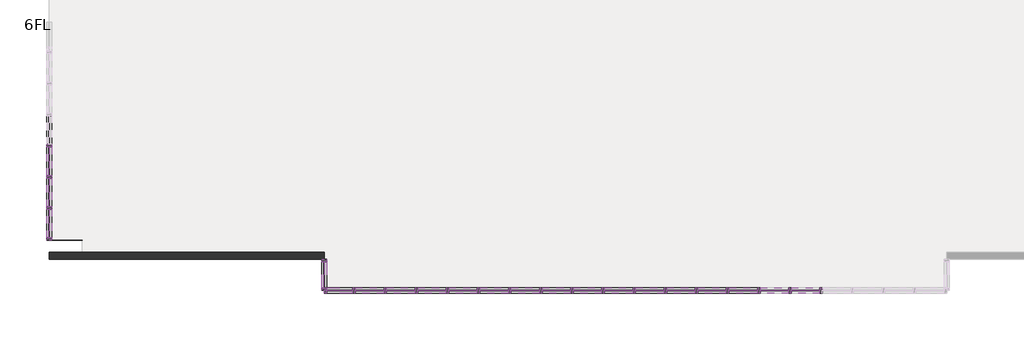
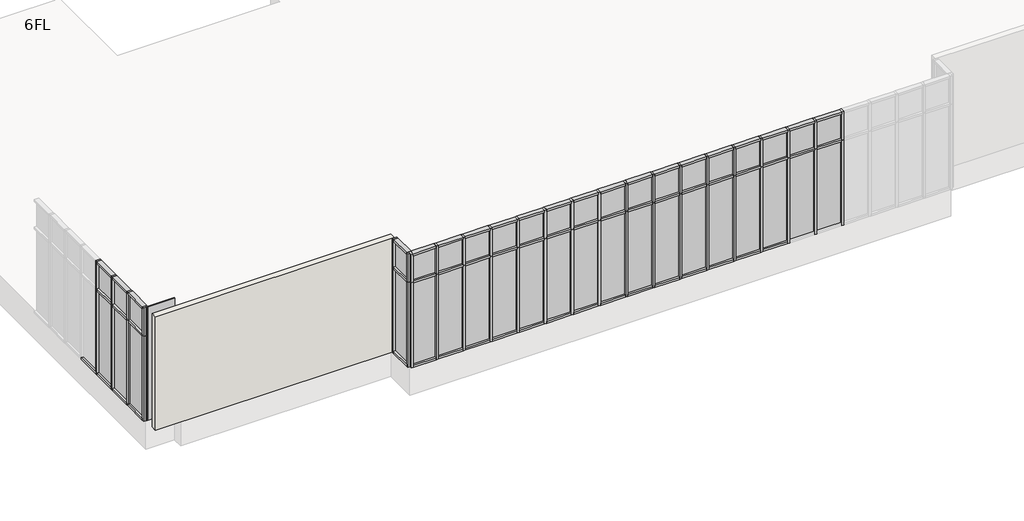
# One storey, part 1 of 4: 105 members, 42 plates, 1 wall.
"""IFC4 building model written with IfcOpenShell, lengths in millimetres."""

from ifc_helpers import new_model, si_unit, frame, origin, place, context, project, spatial, polyline, outline, extrude, transform, mapped, element, save
from components import member_70x150_cdd4dcf9, member_70x150_9a135ce4, member_70x150_66cf63de, member_70x150_26475b18, member_70x150_ad4265bc, member_70x150_e0eddb57, member_70x150_1b280ac3, member_70x150_76429c73, plate_d1366ea1, plate_ab860a3c, plate_28587fd3, plate_4b01b467, plate_396bcf3c, plate_83f08a3e

model = new_model("IFC4")

# Units and contexts
model_context = context("Model", 3, world=origin())
ifc_project = project(units=[si_unit("LENGTHUNIT", "METRE", prefix="MILLI")], contexts=[model_context])

# Site, building, storey
site = spatial("IfcSite", under=ifc_project)
building = spatial("IfcBuilding", under=site)
storey = spatial("IfcBuildingStorey", under=building, Name="6FL", Elevation=20600.0)

# Members
placement = place(None, origin())
member_70x150_shape = member_70x150_cdd4dcf9(model_context)
element("IfcMember", 1, ObjectType="長方形のマリオン : 70x150", at=placement, inside=storey, context=model_context, shape_type="MappedRepresentation", body=[
    mapped(member_70x150_shape, transform((-19630.9784025, -4550.3131013, 20600.0), x_axis=(-1.0, 0.0, 0.0), y_axis=(0.0, 1.0, 0.0), z_axis=(0.0, 0.0, -1.0))),
])
element("IfcMember", 2, ObjectType="長方形のマリオン : 70x150", at=placement, inside=storey, context=model_context, shape_type="MappedRepresentation", body=[
    mapped(member_70x150_shape, transform((-16030.9784025, -4550.3131013, 20600.0), x_axis=(-1.0, 0.0, 0.0), y_axis=(0.0, 1.0, 0.0), z_axis=(0.0, 0.0, -1.0))),
])
element("IfcMember", 3, ObjectType="長方形のマリオン : 70x150", at=placement, inside=storey, context=model_context, shape_type="MappedRepresentation", body=[
    mapped(member_70x150_shape, transform((-20530.9784025, -4550.3131013, 20600.0), x_axis=(-1.0, 0.0, 0.0), y_axis=(0.0, 1.0, 0.0), z_axis=(0.0, 0.0, -1.0))),
])
element("IfcMember", 4, ObjectType="長方形のマリオン : 70x150", at=placement, inside=storey, context=model_context, shape_type="MappedRepresentation", body=[
    mapped(member_70x150_shape, transform((-17830.9784025, -4550.3131013, 20600.0), x_axis=(-1.0, 0.0, 0.0), y_axis=(0.0, 1.0, 0.0), z_axis=(0.0, 0.0, -1.0))),
])
element("IfcMember", 5, ObjectType="長方形のマリオン : 70x150", at=placement, inside=storey, context=model_context, shape_type="MappedRepresentation", body=[
    mapped(member_70x150_shape, transform((-14230.9784025, -4550.3131013, 20600.0), x_axis=(-1.0, 0.0, 0.0), y_axis=(0.0, 1.0, 0.0), z_axis=(0.0, 0.0, -1.0))),
])
element("IfcMember", 6, ObjectType="長方形のマリオン : 70x150", at=placement, inside=storey, context=model_context, shape_type="MappedRepresentation", body=[
    mapped(member_70x150_shape, transform((-18730.9784025, -4550.3131013, 20600.0), x_axis=(-1.0, 0.0, 0.0), y_axis=(0.0, 1.0, 0.0), z_axis=(0.0, 0.0, -1.0))),
])
element("IfcMember", 7, ObjectType="長方形のマリオン : 70x150", at=placement, inside=storey, context=model_context, shape_type="MappedRepresentation", body=[
    mapped(member_70x150_shape, transform((-15130.9784025, -4550.3131013, 20600.0), x_axis=(-1.0, 0.0, 0.0), y_axis=(0.0, 1.0, 0.0), z_axis=(0.0, 0.0, -1.0))),
])
element("IfcMember", 8, ObjectType="長方形のマリオン : 70x150", at=placement, inside=storey, context=model_context, shape_type="MappedRepresentation", body=[
    mapped(member_70x150_shape, transform((-13330.9784025, -4550.3131013, 20600.0), x_axis=(-1.0, 0.0, 0.0), y_axis=(0.0, 1.0, 0.0), z_axis=(0.0, 0.0, -1.0))),
])
element("IfcMember", 9, ObjectType="長方形のマリオン : 70x150", at=placement, inside=storey, context=model_context, shape_type="MappedRepresentation", body=[
    mapped(member_70x150_shape, transform((-16930.9784025, -4550.3131013, 20600.0), x_axis=(-1.0, 0.0, 0.0), y_axis=(0.0, 1.0, 0.0), z_axis=(0.0, 0.0, -1.0))),
])
element("IfcMember", 10, ObjectType="長方形のマリオン : 70x150", at=placement, inside=storey, context=model_context, shape_type="MappedRepresentation", body=[
    mapped(member_70x150_shape, transform((-12430.9784025, -4550.3131013, 20600.0), x_axis=(-1.0, 0.0, 0.0), y_axis=(0.0, 1.0, 0.0), z_axis=(0.0, 0.0, -1.0))),
])
element("IfcMember", 11, ObjectType="長方形のマリオン : 70x150", at=placement, inside=storey, context=model_context, shape_type="MappedRepresentation", body=[
    mapped(member_70x150_shape, transform((-10630.9784025, -4550.3131013, 20600.0), x_axis=(-1.0, 0.0, 0.0), y_axis=(0.0, 1.0, 0.0), z_axis=(0.0, 0.0, -1.0))),
])
element("IfcMember", 12, ObjectType="長方形のマリオン : 70x150", at=placement, inside=storey, context=model_context, shape_type="MappedRepresentation", body=[
    mapped(member_70x150_shape, transform((-7930.9784025, -4550.3131013, 20600.0), x_axis=(-1.0, 0.0, 0.0), y_axis=(0.0, 1.0, 0.0), z_axis=(0.0, 0.0, -1.0))),
])
element("IfcMember", 13, ObjectType="長方形のマリオン : 70x150", at=placement, inside=storey, context=model_context, shape_type="MappedRepresentation", body=[
    mapped(member_70x150_shape, transform((-9730.9784025, -4550.3131013, 20600.0), x_axis=(-1.0, 0.0, 0.0), y_axis=(0.0, 1.0, 0.0), z_axis=(0.0, 0.0, -1.0))),
])
element("IfcMember", 14, ObjectType="長方形のマリオン : 70x150", at=placement, inside=storey, context=model_context, shape_type="MappedRepresentation", body=[
    mapped(member_70x150_shape, transform((-11530.9784025, -4550.3131013, 20600.0), x_axis=(-1.0, 0.0, 0.0), y_axis=(0.0, 1.0, 0.0), z_axis=(0.0, 0.0, -1.0))),
])
element("IfcMember", 15, ObjectType="長方形のマリオン : 70x150", at=placement, inside=storey, context=model_context, shape_type="MappedRepresentation", body=[
    mapped(member_70x150_shape, transform((-8830.9784025, -4550.3131013, 20600.0), x_axis=(-1.0, 0.0, 0.0), y_axis=(0.0, 1.0, 0.0), z_axis=(0.0, 0.0, -1.0))),
])
element("IfcMember", 16, ObjectType="長方形のマリオン : 70x150", at=placement, inside=storey, context=model_context, shape_type="MappedRepresentation", body=[
    mapped(member_70x150_shape, transform((-7030.9784025, -4550.3131013, 20600.0), x_axis=(-1.0, 0.0, 0.0), y_axis=(0.0, 1.0, 0.0), z_axis=(0.0, 0.0, -1.0))),
])
element("IfcMember", 17, ObjectType="長方形のマリオン : 70x150", at=placement, inside=storey, context=model_context, shape_type="MappedRepresentation", body=[
    mapped(member_70x150_shape, transform((-29345.9784025, -365.3131013, 20600.0), x_axis=(0.0, 1.0, 0.0), y_axis=(1.0, 0.0, 0.0), z_axis=(0.0, 0.0, -1.0))),
])
element("IfcMember", 18, ObjectType="長方形のマリオン : 70x150", at=placement, inside=storey, context=model_context, shape_type="MappedRepresentation", body=[
    mapped(member_70x150_shape, transform((-29345.9784025, -2165.3131013, 20600.0), x_axis=(0.0, 1.0, 0.0), y_axis=(1.0, 0.0, 0.0), z_axis=(0.0, 0.0, -1.0))),
])
element("IfcMember", 19, ObjectType="長方形のマリオン : 70x150", at=placement, inside=storey, context=model_context, shape_type="MappedRepresentation", body=[
    mapped(member_70x150_shape, transform((-29345.9784025, -1265.3131013, 20600.0), x_axis=(0.0, 1.0, 0.0), y_axis=(1.0, 0.0, 0.0), z_axis=(0.0, 0.0, -1.0))),
])
member_70x150_2_shape = member_70x150_9a135ce4(model_context)
element("IfcMember", 20, ObjectType="長方形のマリオン : 70x150", at=placement, inside=storey, context=model_context, shape_type="MappedRepresentation", body=[
    mapped(member_70x150_2_shape, transform((-21325.9784025, -4550.3131013, 24600.0), x_axis=(0.0, 0.0, 1.0), y_axis=(0.0, 1.0, 0.0), z_axis=(-1.0, 0.0, 0.0))),
])
element("IfcMember", 21, ObjectType="長方形のマリオン : 70x150", at=placement, inside=storey, context=model_context, shape_type="MappedRepresentation", body=[
    mapped(member_70x150_2_shape, transform((-21395.9784025, -3720.3131013, 24600.0), x_axis=(0.0, 0.0, 1.0), y_axis=(1.0, 0.0, 0.0), z_axis=(0.0, 1.0, 0.0))),
])
member_70x150_3_shape = member_70x150_66cf63de(model_context)
element("IfcMember", 22, ObjectType="長方形のマリオン : 70x150", at=placement, inside=storey, context=model_context, shape_type="MappedRepresentation", body=[
    mapped(member_70x150_3_shape, transform((-19665.9784025, -4550.3131013, 20600.0), x_axis=(0.0, 0.0, -1.0), y_axis=(0.0, 1.0, 0.0), z_axis=(1.0, 0.0, 0.0))),
])
element("IfcMember", 23, ObjectType="長方形のマリオン : 70x150", at=placement, inside=storey, context=model_context, shape_type="MappedRepresentation", body=[
    mapped(member_70x150_3_shape, transform((-18765.9784025, -4550.3131013, 20600.0), x_axis=(0.0, 0.0, -1.0), y_axis=(0.0, 1.0, 0.0), z_axis=(1.0, 0.0, 0.0))),
])
element("IfcMember", 24, ObjectType="長方形のマリオン : 70x150", at=placement, inside=storey, context=model_context, shape_type="MappedRepresentation", body=[
    mapped(member_70x150_3_shape, transform((-17865.9784025, -4550.3131013, 20600.0), x_axis=(0.0, 0.0, -1.0), y_axis=(0.0, 1.0, 0.0), z_axis=(1.0, 0.0, 0.0))),
])
element("IfcMember", 25, ObjectType="長方形のマリオン : 70x150", at=placement, inside=storey, context=model_context, shape_type="MappedRepresentation", body=[
    mapped(member_70x150_3_shape, transform((-16965.9784025, -4550.3131013, 20600.0), x_axis=(0.0, 0.0, -1.0), y_axis=(0.0, 1.0, 0.0), z_axis=(1.0, 0.0, 0.0))),
])
element("IfcMember", 26, ObjectType="長方形のマリオン : 70x150", at=placement, inside=storey, context=model_context, shape_type="MappedRepresentation", body=[
    mapped(member_70x150_3_shape, transform((-16065.9784025, -4550.3131013, 20600.0), x_axis=(0.0, 0.0, -1.0), y_axis=(0.0, 1.0, 0.0), z_axis=(1.0, 0.0, 0.0))),
])
element("IfcMember", 27, ObjectType="長方形のマリオン : 70x150", at=placement, inside=storey, context=model_context, shape_type="MappedRepresentation", body=[
    mapped(member_70x150_3_shape, transform((-11565.9784025, -4550.3131013, 20600.0), x_axis=(0.0, 0.0, -1.0), y_axis=(0.0, 1.0, 0.0), z_axis=(1.0, 0.0, 0.0))),
])
element("IfcMember", 28, ObjectType="長方形のマリオン : 70x150", at=placement, inside=storey, context=model_context, shape_type="MappedRepresentation", body=[
    mapped(member_70x150_3_shape, transform((-9765.9784025, -4550.3131013, 20600.0), x_axis=(0.0, 0.0, -1.0), y_axis=(0.0, 1.0, 0.0), z_axis=(1.0, 0.0, 0.0))),
])
element("IfcMember", 29, ObjectType="長方形のマリオン : 70x150", at=placement, inside=storey, context=model_context, shape_type="MappedRepresentation", body=[
    mapped(member_70x150_3_shape, transform((-13365.9784025, -4550.3131013, 20600.0), x_axis=(0.0, 0.0, -1.0), y_axis=(0.0, 1.0, 0.0), z_axis=(1.0, 0.0, 0.0))),
])
element("IfcMember", 30, ObjectType="長方形のマリオン : 70x150", at=placement, inside=storey, context=model_context, shape_type="MappedRepresentation", body=[
    mapped(member_70x150_3_shape, transform((-12465.9784025, -4550.3131013, 20600.0), x_axis=(0.0, 0.0, -1.0), y_axis=(0.0, 1.0, 0.0), z_axis=(1.0, 0.0, 0.0))),
])
element("IfcMember", 31, ObjectType="長方形のマリオン : 70x150", at=placement, inside=storey, context=model_context, shape_type="MappedRepresentation", body=[
    mapped(member_70x150_3_shape, transform((-14265.9784025, -4550.3131013, 20600.0), x_axis=(0.0, 0.0, -1.0), y_axis=(0.0, 1.0, 0.0), z_axis=(1.0, 0.0, 0.0))),
])
element("IfcMember", 32, ObjectType="長方形のマリオン : 70x150", at=placement, inside=storey, context=model_context, shape_type="MappedRepresentation", body=[
    mapped(member_70x150_3_shape, transform((-10665.9784025, -4550.3131013, 20600.0), x_axis=(0.0, 0.0, -1.0), y_axis=(0.0, 1.0, 0.0), z_axis=(1.0, 0.0, 0.0))),
])
element("IfcMember", 33, ObjectType="長方形のマリオン : 70x150", at=placement, inside=storey, context=model_context, shape_type="MappedRepresentation", body=[
    mapped(member_70x150_3_shape, transform((-15165.9784025, -4550.3131013, 20600.0), x_axis=(0.0, 0.0, -1.0), y_axis=(0.0, 1.0, 0.0), z_axis=(1.0, 0.0, 0.0))),
])
element("IfcMember", 34, ObjectType="長方形のマリオン : 70x150", at=placement, inside=storey, context=model_context, shape_type="MappedRepresentation", body=[
    mapped(member_70x150_3_shape, transform((-8865.9784025, -4550.3131013, 20600.0), x_axis=(0.0, 0.0, -1.0), y_axis=(0.0, 1.0, 0.0), z_axis=(1.0, 0.0, 0.0))),
])
element("IfcMember", 35, ObjectType="長方形のマリオン : 70x150", at=placement, inside=storey, context=model_context, shape_type="MappedRepresentation", body=[
    mapped(member_70x150_3_shape, transform((-29345.9784025, -330.3131013, 20600.0), x_axis=(0.0, 0.0, -1.0), y_axis=(1.0, 0.0, 0.0), z_axis=(0.0, -1.0, 0.0))),
])
element("IfcMember", 36, ObjectType="長方形のマリオン : 70x150", at=placement, inside=storey, context=model_context, shape_type="MappedRepresentation", body=[
    mapped(member_70x150_3_shape, transform((-29345.9784025, -1230.3131013, 20600.0), x_axis=(0.0, 0.0, -1.0), y_axis=(1.0, 0.0, 0.0), z_axis=(0.0, -1.0, 0.0))),
])
element("IfcMember", 37, ObjectType="長方形のマリオン : 70x150", at=placement, inside=storey, context=model_context, shape_type="MappedRepresentation", body=[
    mapped(member_70x150_3_shape, transform((-29345.9784025, -2130.3131013, 20600.0), x_axis=(0.0, 0.0, -1.0), y_axis=(1.0, 0.0, 0.0), z_axis=(0.0, -1.0, 0.0))),
])
element("IfcMember", 38, ObjectType="長方形のマリオン : 70x150", at=placement, inside=storey, context=model_context, shape_type="MappedRepresentation", body=[
    mapped(member_70x150_3_shape, transform((-29345.9784025, -3030.3131013, 20600.0), x_axis=(0.0, 0.0, -1.0), y_axis=(1.0, 0.0, 0.0), z_axis=(0.0, -1.0, 0.0))),
])
element("IfcMember", 39, ObjectType="長方形のマリオン : 70x150", at=placement, inside=storey, context=model_context, shape_type="MappedRepresentation", body=[
    mapped(member_70x150_3_shape, transform((-19595.9784025, -4550.3131013, 24600.0), x_axis=(0.0, 0.0, 1.0), y_axis=(0.0, 1.0, 0.0), z_axis=(-1.0, 0.0, 0.0))),
])
element("IfcMember", 40, ObjectType="長方形のマリオン : 70x150", at=placement, inside=storey, context=model_context, shape_type="MappedRepresentation", body=[
    mapped(member_70x150_3_shape, transform((-18695.9784025, -4550.3131013, 24600.0), x_axis=(0.0, 0.0, 1.0), y_axis=(0.0, 1.0, 0.0), z_axis=(-1.0, 0.0, 0.0))),
])
element("IfcMember", 41, ObjectType="長方形のマリオン : 70x150", at=placement, inside=storey, context=model_context, shape_type="MappedRepresentation", body=[
    mapped(member_70x150_3_shape, transform((-17795.9784025, -4550.3131013, 24600.0), x_axis=(0.0, 0.0, 1.0), y_axis=(0.0, 1.0, 0.0), z_axis=(-1.0, 0.0, 0.0))),
])
element("IfcMember", 42, ObjectType="長方形のマリオン : 70x150", at=placement, inside=storey, context=model_context, shape_type="MappedRepresentation", body=[
    mapped(member_70x150_3_shape, transform((-16895.9784025, -4550.3131013, 24600.0), x_axis=(0.0, 0.0, 1.0), y_axis=(0.0, 1.0, 0.0), z_axis=(-1.0, 0.0, 0.0))),
])
element("IfcMember", 43, ObjectType="長方形のマリオン : 70x150", at=placement, inside=storey, context=model_context, shape_type="MappedRepresentation", body=[
    mapped(member_70x150_3_shape, transform((-15995.9784025, -4550.3131013, 24600.0), x_axis=(0.0, 0.0, 1.0), y_axis=(0.0, 1.0, 0.0), z_axis=(-1.0, 0.0, 0.0))),
])
element("IfcMember", 44, ObjectType="長方形のマリオン : 70x150", at=placement, inside=storey, context=model_context, shape_type="MappedRepresentation", body=[
    mapped(member_70x150_3_shape, transform((-15095.9784025, -4550.3131013, 24600.0), x_axis=(0.0, 0.0, 1.0), y_axis=(0.0, 1.0, 0.0), z_axis=(-1.0, 0.0, 0.0))),
])
element("IfcMember", 45, ObjectType="長方形のマリオン : 70x150", at=placement, inside=storey, context=model_context, shape_type="MappedRepresentation", body=[
    mapped(member_70x150_3_shape, transform((-14195.9784025, -4550.3131013, 24600.0), x_axis=(0.0, 0.0, 1.0), y_axis=(0.0, 1.0, 0.0), z_axis=(-1.0, 0.0, 0.0))),
])
element("IfcMember", 46, ObjectType="長方形のマリオン : 70x150", at=placement, inside=storey, context=model_context, shape_type="MappedRepresentation", body=[
    mapped(member_70x150_3_shape, transform((-13295.9784025, -4550.3131013, 24600.0), x_axis=(0.0, 0.0, 1.0), y_axis=(0.0, 1.0, 0.0), z_axis=(-1.0, 0.0, 0.0))),
])
element("IfcMember", 47, ObjectType="長方形のマリオン : 70x150", at=placement, inside=storey, context=model_context, shape_type="MappedRepresentation", body=[
    mapped(member_70x150_3_shape, transform((-12395.9784025, -4550.3131013, 24600.0), x_axis=(0.0, 0.0, 1.0), y_axis=(0.0, 1.0, 0.0), z_axis=(-1.0, 0.0, 0.0))),
])
element("IfcMember", 48, ObjectType="長方形のマリオン : 70x150", at=placement, inside=storey, context=model_context, shape_type="MappedRepresentation", body=[
    mapped(member_70x150_3_shape, transform((-11495.9784025, -4550.3131013, 24600.0), x_axis=(0.0, 0.0, 1.0), y_axis=(0.0, 1.0, 0.0), z_axis=(-1.0, 0.0, 0.0))),
])
element("IfcMember", 49, ObjectType="長方形のマリオン : 70x150", at=placement, inside=storey, context=model_context, shape_type="MappedRepresentation", body=[
    mapped(member_70x150_3_shape, transform((-10595.9784025, -4550.3131013, 24600.0), x_axis=(0.0, 0.0, 1.0), y_axis=(0.0, 1.0, 0.0), z_axis=(-1.0, 0.0, 0.0))),
])
element("IfcMember", 50, ObjectType="長方形のマリオン : 70x150", at=placement, inside=storey, context=model_context, shape_type="MappedRepresentation", body=[
    mapped(member_70x150_3_shape, transform((-9695.9784025, -4550.3131013, 24600.0), x_axis=(0.0, 0.0, 1.0), y_axis=(0.0, 1.0, 0.0), z_axis=(-1.0, 0.0, 0.0))),
])
element("IfcMember", 51, ObjectType="長方形のマリオン : 70x150", at=placement, inside=storey, context=model_context, shape_type="MappedRepresentation", body=[
    mapped(member_70x150_3_shape, transform((-8795.9784025, -4550.3131013, 24600.0), x_axis=(0.0, 0.0, 1.0), y_axis=(0.0, 1.0, 0.0), z_axis=(-1.0, 0.0, 0.0))),
])
element("IfcMember", 52, ObjectType="長方形のマリオン : 70x150", at=placement, inside=storey, context=model_context, shape_type="MappedRepresentation", body=[
    mapped(member_70x150_3_shape, transform((-7895.9784025, -4550.3131013, 24600.0), x_axis=(0.0, 0.0, 1.0), y_axis=(0.0, 1.0, 0.0), z_axis=(-1.0, 0.0, 0.0))),
])
element("IfcMember", 53, ObjectType="長方形のマリオン : 70x150", at=placement, inside=storey, context=model_context, shape_type="MappedRepresentation", body=[
    mapped(member_70x150_3_shape, transform((-20495.9784025, -4550.3131013, 24600.0), x_axis=(0.0, 0.0, 1.0), y_axis=(0.0, 1.0, 0.0), z_axis=(-1.0, 0.0, 0.0))),
])
element("IfcMember", 54, ObjectType="長方形のマリオン : 70x150", at=placement, inside=storey, context=model_context, shape_type="MappedRepresentation", body=[
    mapped(member_70x150_3_shape, transform((-29345.9784025, -400.3131013, 24600.0), x_axis=(0.0, 0.0, 1.0), y_axis=(1.0, 0.0, 0.0), z_axis=(0.0, 1.0, 0.0))),
])
element("IfcMember", 55, ObjectType="長方形のマリオン : 70x150", at=placement, inside=storey, context=model_context, shape_type="MappedRepresentation", body=[
    mapped(member_70x150_3_shape, transform((-29345.9784025, -1300.3131013, 24600.0), x_axis=(0.0, 0.0, 1.0), y_axis=(1.0, 0.0, 0.0), z_axis=(0.0, 1.0, 0.0))),
])
element("IfcMember", 56, ObjectType="長方形のマリオン : 70x150", at=placement, inside=storey, context=model_context, shape_type="MappedRepresentation", body=[
    mapped(member_70x150_3_shape, transform((-29345.9784025, -2200.3131013, 24600.0), x_axis=(0.0, 0.0, 1.0), y_axis=(1.0, 0.0, 0.0), z_axis=(0.0, 1.0, 0.0))),
])
element("IfcMember", 57, ObjectType="長方形のマリオン : 70x150", at=placement, inside=storey, context=model_context, shape_type="MappedRepresentation", body=[
    mapped(member_70x150_2_shape, transform((-20565.9784025, -4550.3131013, 20600.0), x_axis=(0.0, 0.0, -1.0), y_axis=(0.0, 1.0, 0.0), z_axis=(1.0, 0.0, 0.0))),
])
element("IfcMember", 58, ObjectType="長方形のマリオン : 70x150", at=placement, inside=storey, context=model_context, shape_type="MappedRepresentation", body=[
    mapped(member_70x150_2_shape, transform((-21395.9784025, -4480.3131013, 20600.0), x_axis=(0.0, 0.0, -1.0), y_axis=(1.0, 0.0, 0.0), z_axis=(0.0, -1.0, 0.0))),
])
member_70x150_4_shape = member_70x150_26475b18(model_context)
element("IfcMember", 59, ObjectType="長方形のマリオン : 70x150", at=placement, inside=storey, context=model_context, shape_type="MappedRepresentation", body=[
    mapped(member_70x150_4_shape, transform((-20530.9784025, -4550.3131013, 23600.0), x_axis=(-1.0, 0.0, 0.0), y_axis=(0.0, 1.0, 0.0), z_axis=(0.0, 0.0, -1.0))),
])
element("IfcMember", 60, ObjectType="長方形のマリオン : 70x150", at=placement, inside=storey, context=model_context, shape_type="MappedRepresentation", body=[
    mapped(member_70x150_4_shape, transform((-19630.9784025, -4550.3131013, 23600.0), x_axis=(-1.0, 0.0, 0.0), y_axis=(0.0, 1.0, 0.0), z_axis=(0.0, 0.0, -1.0))),
])
element("IfcMember", 61, ObjectType="長方形のマリオン : 70x150", at=placement, inside=storey, context=model_context, shape_type="MappedRepresentation", body=[
    mapped(member_70x150_4_shape, transform((-18730.9784025, -4550.3131013, 23600.0), x_axis=(-1.0, 0.0, 0.0), y_axis=(0.0, 1.0, 0.0), z_axis=(0.0, 0.0, -1.0))),
])
element("IfcMember", 62, ObjectType="長方形のマリオン : 70x150", at=placement, inside=storey, context=model_context, shape_type="MappedRepresentation", body=[
    mapped(member_70x150_4_shape, transform((-17830.9784025, -4550.3131013, 23600.0), x_axis=(-1.0, 0.0, 0.0), y_axis=(0.0, 1.0, 0.0), z_axis=(0.0, 0.0, -1.0))),
])
element("IfcMember", 63, ObjectType="長方形のマリオン : 70x150", at=placement, inside=storey, context=model_context, shape_type="MappedRepresentation", body=[
    mapped(member_70x150_4_shape, transform((-16930.9784025, -4550.3131013, 23600.0), x_axis=(-1.0, 0.0, 0.0), y_axis=(0.0, 1.0, 0.0), z_axis=(0.0, 0.0, -1.0))),
])
element("IfcMember", 64, ObjectType="長方形のマリオン : 70x150", at=placement, inside=storey, context=model_context, shape_type="MappedRepresentation", body=[
    mapped(member_70x150_4_shape, transform((-16030.9784025, -4550.3131013, 23600.0), x_axis=(-1.0, 0.0, 0.0), y_axis=(0.0, 1.0, 0.0), z_axis=(0.0, 0.0, -1.0))),
])
element("IfcMember", 65, ObjectType="長方形のマリオン : 70x150", at=placement, inside=storey, context=model_context, shape_type="MappedRepresentation", body=[
    mapped(member_70x150_4_shape, transform((-15130.9784025, -4550.3131013, 23600.0), x_axis=(-1.0, 0.0, 0.0), y_axis=(0.0, 1.0, 0.0), z_axis=(0.0, 0.0, -1.0))),
])
element("IfcMember", 66, ObjectType="長方形のマリオン : 70x150", at=placement, inside=storey, context=model_context, shape_type="MappedRepresentation", body=[
    mapped(member_70x150_4_shape, transform((-14230.9784025, -4550.3131013, 23600.0), x_axis=(-1.0, 0.0, 0.0), y_axis=(0.0, 1.0, 0.0), z_axis=(0.0, 0.0, -1.0))),
])
element("IfcMember", 67, ObjectType="長方形のマリオン : 70x150", at=placement, inside=storey, context=model_context, shape_type="MappedRepresentation", body=[
    mapped(member_70x150_4_shape, transform((-13330.9784025, -4550.3131013, 23600.0), x_axis=(-1.0, 0.0, 0.0), y_axis=(0.0, 1.0, 0.0), z_axis=(0.0, 0.0, -1.0))),
])
element("IfcMember", 68, ObjectType="長方形のマリオン : 70x150", at=placement, inside=storey, context=model_context, shape_type="MappedRepresentation", body=[
    mapped(member_70x150_4_shape, transform((-12430.9784025, -4550.3131013, 23600.0), x_axis=(-1.0, 0.0, 0.0), y_axis=(0.0, 1.0, 0.0), z_axis=(0.0, 0.0, -1.0))),
])
element("IfcMember", 69, ObjectType="長方形のマリオン : 70x150", at=placement, inside=storey, context=model_context, shape_type="MappedRepresentation", body=[
    mapped(member_70x150_4_shape, transform((-11530.9784025, -4550.3131013, 23600.0), x_axis=(-1.0, 0.0, 0.0), y_axis=(0.0, 1.0, 0.0), z_axis=(0.0, 0.0, -1.0))),
])
element("IfcMember", 70, ObjectType="長方形のマリオン : 70x150", at=placement, inside=storey, context=model_context, shape_type="MappedRepresentation", body=[
    mapped(member_70x150_4_shape, transform((-10630.9784025, -4550.3131013, 23600.0), x_axis=(-1.0, 0.0, 0.0), y_axis=(0.0, 1.0, 0.0), z_axis=(0.0, 0.0, -1.0))),
])
element("IfcMember", 71, ObjectType="長方形のマリオン : 70x150", at=placement, inside=storey, context=model_context, shape_type="MappedRepresentation", body=[
    mapped(member_70x150_4_shape, transform((-9730.9784025, -4550.3131013, 23600.0), x_axis=(-1.0, 0.0, 0.0), y_axis=(0.0, 1.0, 0.0), z_axis=(0.0, 0.0, -1.0))),
])
element("IfcMember", 72, ObjectType="長方形のマリオン : 70x150", at=placement, inside=storey, context=model_context, shape_type="MappedRepresentation", body=[
    mapped(member_70x150_4_shape, transform((-8830.9784025, -4550.3131013, 23600.0), x_axis=(-1.0, 0.0, 0.0), y_axis=(0.0, 1.0, 0.0), z_axis=(0.0, 0.0, -1.0))),
])
element("IfcMember", 73, ObjectType="長方形のマリオン : 70x150", at=placement, inside=storey, context=model_context, shape_type="MappedRepresentation", body=[
    mapped(member_70x150_4_shape, transform((-7930.9784025, -4550.3131013, 23600.0), x_axis=(-1.0, 0.0, 0.0), y_axis=(0.0, 1.0, 0.0), z_axis=(0.0, 0.0, -1.0))),
])
element("IfcMember", 74, ObjectType="長方形のマリオン : 70x150", at=placement, inside=storey, context=model_context, shape_type="MappedRepresentation", body=[
    mapped(member_70x150_4_shape, transform((-7030.9784025, -4550.3131013, 23600.0), x_axis=(-1.0, 0.0, 0.0), y_axis=(0.0, 1.0, 0.0), z_axis=(0.0, 0.0, -1.0))),
])
element("IfcMember", 75, ObjectType="長方形のマリオン : 70x150", at=placement, inside=storey, context=model_context, shape_type="MappedRepresentation", body=[
    mapped(member_70x150_4_shape, transform((-29345.9784025, -365.3131013, 23600.0), x_axis=(0.0, 1.0, 0.0), y_axis=(1.0, 0.0, 0.0), z_axis=(0.0, 0.0, -1.0))),
])
element("IfcMember", 76, ObjectType="長方形のマリオン : 70x150", at=placement, inside=storey, context=model_context, shape_type="MappedRepresentation", body=[
    mapped(member_70x150_4_shape, transform((-29345.9784025, -2165.3131013, 23600.0), x_axis=(0.0, 1.0, 0.0), y_axis=(1.0, 0.0, 0.0), z_axis=(0.0, 0.0, -1.0))),
])
element("IfcMember", 77, ObjectType="長方形のマリオン : 70x150", at=placement, inside=storey, context=model_context, shape_type="MappedRepresentation", body=[
    mapped(member_70x150_4_shape, transform((-29345.9784025, -1265.3131013, 23600.0), x_axis=(0.0, 1.0, 0.0), y_axis=(1.0, 0.0, 0.0), z_axis=(0.0, 0.0, -1.0))),
])
member_70x150_5_shape = member_70x150_ad4265bc(model_context)
element("IfcMember", 78, ObjectType="長方形のマリオン : 70x150", at=placement, inside=storey, context=model_context, shape_type="MappedRepresentation", body=[
    mapped(member_70x150_5_shape, transform((-17795.9784025, -4550.3131013, 23600.0), x_axis=(0.0, 0.0, 1.0), y_axis=(0.0, 1.0, 0.0), z_axis=(-1.0, 0.0, 0.0))),
])
element("IfcMember", 79, ObjectType="長方形のマリオン : 70x150", at=placement, inside=storey, context=model_context, shape_type="MappedRepresentation", body=[
    mapped(member_70x150_5_shape, transform((-13295.9784025, -4550.3131013, 23600.0), x_axis=(0.0, 0.0, 1.0), y_axis=(0.0, 1.0, 0.0), z_axis=(-1.0, 0.0, 0.0))),
])
element("IfcMember", 80, ObjectType="長方形のマリオン : 70x150", at=placement, inside=storey, context=model_context, shape_type="MappedRepresentation", body=[
    mapped(member_70x150_5_shape, transform((-12395.9784025, -4550.3131013, 23600.0), x_axis=(0.0, 0.0, 1.0), y_axis=(0.0, 1.0, 0.0), z_axis=(-1.0, 0.0, 0.0))),
])
element("IfcMember", 81, ObjectType="長方形のマリオン : 70x150", at=placement, inside=storey, context=model_context, shape_type="MappedRepresentation", body=[
    mapped(member_70x150_5_shape, transform((-9695.9784025, -4550.3131013, 23600.0), x_axis=(0.0, 0.0, 1.0), y_axis=(0.0, 1.0, 0.0), z_axis=(-1.0, 0.0, 0.0))),
])
element("IfcMember", 82, ObjectType="長方形のマリオン : 70x150", at=placement, inside=storey, context=model_context, shape_type="MappedRepresentation", body=[
    mapped(member_70x150_5_shape, transform((-15995.9784025, -4550.3131013, 23600.0), x_axis=(0.0, 0.0, 1.0), y_axis=(0.0, 1.0, 0.0), z_axis=(-1.0, 0.0, 0.0))),
])
element("IfcMember", 83, ObjectType="長方形のマリオン : 70x150", at=placement, inside=storey, context=model_context, shape_type="MappedRepresentation", body=[
    mapped(member_70x150_5_shape, transform((-15095.9784025, -4550.3131013, 23600.0), x_axis=(0.0, 0.0, 1.0), y_axis=(0.0, 1.0, 0.0), z_axis=(-1.0, 0.0, 0.0))),
])
element("IfcMember", 84, ObjectType="長方形のマリオン : 70x150", at=placement, inside=storey, context=model_context, shape_type="MappedRepresentation", body=[
    mapped(member_70x150_5_shape, transform((-16895.9784025, -4550.3131013, 23600.0), x_axis=(0.0, 0.0, 1.0), y_axis=(0.0, 1.0, 0.0), z_axis=(-1.0, 0.0, 0.0))),
])
element("IfcMember", 85, ObjectType="長方形のマリオン : 70x150", at=placement, inside=storey, context=model_context, shape_type="MappedRepresentation", body=[
    mapped(member_70x150_5_shape, transform((-8795.9784025, -4550.3131013, 23600.0), x_axis=(0.0, 0.0, 1.0), y_axis=(0.0, 1.0, 0.0), z_axis=(-1.0, 0.0, 0.0))),
])
element("IfcMember", 86, ObjectType="長方形のマリオン : 70x150", at=placement, inside=storey, context=model_context, shape_type="MappedRepresentation", body=[
    mapped(member_70x150_5_shape, transform((-11495.9784025, -4550.3131013, 23600.0), x_axis=(0.0, 0.0, 1.0), y_axis=(0.0, 1.0, 0.0), z_axis=(-1.0, 0.0, 0.0))),
])
element("IfcMember", 87, ObjectType="長方形のマリオン : 70x150", at=placement, inside=storey, context=model_context, shape_type="MappedRepresentation", body=[
    mapped(member_70x150_5_shape, transform((-14195.9784025, -4550.3131013, 23600.0), x_axis=(0.0, 0.0, 1.0), y_axis=(0.0, 1.0, 0.0), z_axis=(-1.0, 0.0, 0.0))),
])
element("IfcMember", 88, ObjectType="長方形のマリオン : 70x150", at=placement, inside=storey, context=model_context, shape_type="MappedRepresentation", body=[
    mapped(member_70x150_5_shape, transform((-7895.9784025, -4550.3131013, 23600.0), x_axis=(0.0, 0.0, 1.0), y_axis=(0.0, 1.0, 0.0), z_axis=(-1.0, 0.0, 0.0))),
])
element("IfcMember", 89, ObjectType="長方形のマリオン : 70x150", at=placement, inside=storey, context=model_context, shape_type="MappedRepresentation", body=[
    mapped(member_70x150_5_shape, transform((-19595.9784025, -4550.3131013, 23600.0), x_axis=(0.0, 0.0, 1.0), y_axis=(0.0, 1.0, 0.0), z_axis=(-1.0, 0.0, 0.0))),
])
element("IfcMember", 90, ObjectType="長方形のマリオン : 70x150", at=placement, inside=storey, context=model_context, shape_type="MappedRepresentation", body=[
    mapped(member_70x150_5_shape, transform((-18695.9784025, -4550.3131013, 23600.0), x_axis=(0.0, 0.0, 1.0), y_axis=(0.0, 1.0, 0.0), z_axis=(-1.0, 0.0, 0.0))),
])
element("IfcMember", 91, ObjectType="長方形のマリオン : 70x150", at=placement, inside=storey, context=model_context, shape_type="MappedRepresentation", body=[
    mapped(member_70x150_5_shape, transform((-10595.9784025, -4550.3131013, 23600.0), x_axis=(0.0, 0.0, 1.0), y_axis=(0.0, 1.0, 0.0), z_axis=(-1.0, 0.0, 0.0))),
])
element("IfcMember", 92, ObjectType="長方形のマリオン : 70x150", at=placement, inside=storey, context=model_context, shape_type="MappedRepresentation", body=[
    mapped(member_70x150_5_shape, transform((-20495.9784025, -4550.3131013, 23600.0), x_axis=(0.0, 0.0, 1.0), y_axis=(0.0, 1.0, 0.0), z_axis=(-1.0, 0.0, 0.0))),
])
element("IfcMember", 93, ObjectType="長方形のマリオン : 70x150", at=placement, inside=storey, context=model_context, shape_type="MappedRepresentation", body=[
    mapped(member_70x150_5_shape, transform((-29345.9784025, -2200.3131013, 23600.0), x_axis=(0.0, 0.0, 1.0), y_axis=(1.0, 0.0, 0.0), z_axis=(0.0, 1.0, 0.0))),
])
element("IfcMember", 94, ObjectType="長方形のマリオン : 70x150", at=placement, inside=storey, context=model_context, shape_type="MappedRepresentation", body=[
    mapped(member_70x150_5_shape, transform((-29345.9784025, -400.3131013, 23600.0), x_axis=(0.0, 0.0, 1.0), y_axis=(1.0, 0.0, 0.0), z_axis=(0.0, 1.0, 0.0))),
])
element("IfcMember", 95, ObjectType="長方形のマリオン : 70x150", at=placement, inside=storey, context=model_context, shape_type="MappedRepresentation", body=[
    mapped(member_70x150_5_shape, transform((-29345.9784025, -1300.3131013, 23600.0), x_axis=(0.0, 0.0, 1.0), y_axis=(1.0, 0.0, 0.0), z_axis=(0.0, 1.0, 0.0))),
])
member_70x150_6_shape = member_70x150_e0eddb57(model_context)
element("IfcMember", 96, ObjectType="長方形のマリオン : 70x150", at=placement, inside=storey, context=model_context, shape_type="MappedRepresentation", body=[
    mapped(member_70x150_6_shape, transform((-21325.9784025, -4550.3131013, 23600.0), x_axis=(0.0, 0.0, 1.0), y_axis=(0.0, 1.0, 0.0), z_axis=(-1.0, 0.0, 0.0))),
])
element("IfcMember", 97, ObjectType="長方形のマリオン : 70x150", at=placement, inside=storey, context=model_context, shape_type="MappedRepresentation", body=[
    mapped(member_70x150_6_shape, transform((-21395.9784025, -3720.3131013, 23600.0), x_axis=(0.0, 0.0, 1.0), y_axis=(1.0, 0.0, 0.0), z_axis=(0.0, 1.0, 0.0))),
])
member_70x150_7_shape = member_70x150_1b280ac3(model_context)
element("IfcMember", 98, ObjectType="長方形のマリオン : 70x150", at=placement, inside=storey, context=model_context, shape_type="MappedRepresentation", body=[
    mapped(member_70x150_7_shape, transform((-21395.9784025, -4550.3131013, 20600.0), x_axis=(-1.0, 0.0, 0.0), y_axis=(0.0, 1.0, 0.0), z_axis=(0.0, 0.0, -1.0))),
])
element("IfcMember", 99, ObjectType="長方形のマリオン : 70x150", at=placement, inside=storey, context=model_context, shape_type="MappedRepresentation", body=[
    mapped(member_70x150_7_shape, transform((-21395.9784025, -3650.3131013, 20600.0), x_axis=(0.0, 1.0, 0.0), y_axis=(1.0, 0.0, 0.0), z_axis=(0.0, 0.0, -1.0))),
])
member_70x150_8_shape = member_70x150_76429c73(model_context)
element("IfcMember", 100, ObjectType="長方形のマリオン : 70x150", at=placement, inside=storey, context=model_context, shape_type="MappedRepresentation", body=[
    mapped(member_70x150_8_shape, transform((-29345.9784025, -3100.3131013, 24600.0), x_axis=(0.0, -1.0, 0.0), y_axis=(1.0, 0.0, 0.0), z_axis=(0.0, 0.0, 1.0))),
])
element("IfcMember", 101, ObjectType="長方形のマリオン : 70x150", at=placement, inside=storey, context=model_context, shape_type="MappedRepresentation", body=[
    mapped(member_70x150_8_shape, transform((-21395.9784025, -4550.3131013, 24600.0), x_axis=(0.0, -1.0, 0.0), y_axis=(1.0, 0.0, 0.0), z_axis=(0.0, 0.0, 1.0))),
])
element("IfcMember", 102, ObjectType="長方形のマリオン : 70x150", at=placement, inside=storey, context=model_context, shape_type="MappedRepresentation", body=[
    mapped(member_70x150_8_shape, transform((-21395.9784025, -4550.3131013, 23600.0), x_axis=(-1.0, 0.0, 0.0), y_axis=(0.0, 1.0, 0.0), z_axis=(0.0, 0.0, -1.0))),
])
element("IfcMember", 103, ObjectType="長方形のマリオン : 70x150", at=placement, inside=storey, context=model_context, shape_type="MappedRepresentation", body=[
    mapped(member_70x150_8_shape, transform((-21395.9784025, -3650.3131013, 23600.0), x_axis=(0.0, 1.0, 0.0), y_axis=(1.0, 0.0, 0.0), z_axis=(0.0, 0.0, -1.0))),
])
element("IfcMember", 104, ObjectType="長方形のマリオン : 70x150", at=placement, inside=storey, context=model_context, shape_type="MappedRepresentation", body=[
    mapped(member_70x150_7_shape, transform((-29345.9784025, -3100.3131013, 23600.0), x_axis=(0.0, -1.0, 0.0), y_axis=(1.0, 0.0, 0.0), z_axis=(0.0, 0.0, 1.0))),
])
element("IfcMember", 105, ObjectType="長方形のマリオン : 70x150", at=placement, inside=storey, context=model_context, shape_type="MappedRepresentation", body=[
    mapped(member_70x150_7_shape, transform((-21395.9784025, -4550.3131013, 23600.0), x_axis=(0.0, -1.0, 0.0), y_axis=(1.0, 0.0, 0.0), z_axis=(0.0, 0.0, 1.0))),
])

# Plates
plate_shape = plate_d1366ea1(model_context)
element("IfcPlate", 106, ObjectType="システム パネル : 標準", at=placement, inside=storey, context=model_context, shape_type="MappedRepresentation", body=[
    mapped(plate_shape, transform((-28845.9784025, -3100.3131013, 20600.0), x_axis=(-1.0, 0.0, 0.0), y_axis=(0.0, -1.0, 0.0), z_axis=(0.0, 0.0, 1.0))),
])
plate_2_shape = plate_ab860a3c(model_context)
element("IfcPlate", 107, ObjectType="システム パネル : 標準", at=placement, inside=storey, context=model_context, shape_type="MappedRepresentation", body=[
    mapped(plate_2_shape, transform((-29320.9784025, -3100.3131013, 20600.0), x_axis=(-1.0, 0.0, 0.0), y_axis=(0.0, -1.0, 0.0), z_axis=(0.0, 0.0, 1.0))),
])
plate_3_shape = plate_28587fd3(model_context)
element("IfcPlate", 108, ObjectType="システム パネル : 標準", at=placement, inside=storey, context=model_context, shape_type="MappedRepresentation", body=[
    mapped(plate_3_shape, transform((-29345.9784025, -2615.3131013, 20670.0), x_axis=(0.0, 1.0, 0.0), y_axis=(-1.0, 0.0, 0.0), z_axis=(0.0, 0.0, 1.0))),
])
element("IfcPlate", 109, ObjectType="システム パネル : 標準", at=placement, inside=storey, context=model_context, shape_type="MappedRepresentation", body=[
    mapped(plate_3_shape, transform((-29345.9784025, -1715.3131013, 20670.0), x_axis=(0.0, 1.0, 0.0), y_axis=(-1.0, 0.0, 0.0), z_axis=(0.0, 0.0, 1.0))),
])
element("IfcPlate", 110, ObjectType="システム パネル : 標準", at=placement, inside=storey, context=model_context, shape_type="MappedRepresentation", body=[
    mapped(plate_3_shape, transform((-29345.9784025, -815.3131013, 20670.0), x_axis=(0.0, 1.0, 0.0), y_axis=(-1.0, 0.0, 0.0), z_axis=(0.0, 0.0, 1.0))),
])
element("IfcPlate", 111, ObjectType="システム パネル : 標準", at=placement, inside=storey, context=model_context, shape_type="MappedRepresentation", body=[
    mapped(plate_3_shape, transform((-7480.9784025, -4550.3131013, 20670.0), x_axis=(-1.0, 0.0, 0.0), y_axis=(0.0, -1.0, 0.0), z_axis=(0.0, 0.0, 1.0))),
])
element("IfcPlate", 112, ObjectType="システム パネル : 標準", at=placement, inside=storey, context=model_context, shape_type="MappedRepresentation", body=[
    mapped(plate_3_shape, transform((-8380.9784025, -4550.3131013, 20670.0), x_axis=(-1.0, 0.0, 0.0), y_axis=(0.0, -1.0, 0.0), z_axis=(0.0, 0.0, 1.0))),
])
element("IfcPlate", 113, ObjectType="システム パネル : 標準", at=placement, inside=storey, context=model_context, shape_type="MappedRepresentation", body=[
    mapped(plate_3_shape, transform((-9280.9784025, -4550.3131013, 20670.0), x_axis=(-1.0, 0.0, 0.0), y_axis=(0.0, -1.0, 0.0), z_axis=(0.0, 0.0, 1.0))),
])
element("IfcPlate", 114, ObjectType="システム パネル : 標準", at=placement, inside=storey, context=model_context, shape_type="MappedRepresentation", body=[
    mapped(plate_3_shape, transform((-10180.9784025, -4550.3131013, 20670.0), x_axis=(-1.0, 0.0, 0.0), y_axis=(0.0, -1.0, 0.0), z_axis=(0.0, 0.0, 1.0))),
])
element("IfcPlate", 115, ObjectType="システム パネル : 標準", at=placement, inside=storey, context=model_context, shape_type="MappedRepresentation", body=[
    mapped(plate_3_shape, transform((-11080.9784025, -4550.3131013, 20670.0), x_axis=(-1.0, 0.0, 0.0), y_axis=(0.0, -1.0, 0.0), z_axis=(0.0, 0.0, 1.0))),
])
element("IfcPlate", 116, ObjectType="システム パネル : 標準", at=placement, inside=storey, context=model_context, shape_type="MappedRepresentation", body=[
    mapped(plate_3_shape, transform((-11980.9784025, -4550.3131013, 20670.0), x_axis=(-1.0, 0.0, 0.0), y_axis=(0.0, -1.0, 0.0), z_axis=(0.0, 0.0, 1.0))),
])
element("IfcPlate", 117, ObjectType="システム パネル : 標準", at=placement, inside=storey, context=model_context, shape_type="MappedRepresentation", body=[
    mapped(plate_3_shape, transform((-12880.9784025, -4550.3131013, 20670.0), x_axis=(-1.0, 0.0, 0.0), y_axis=(0.0, -1.0, 0.0), z_axis=(0.0, 0.0, 1.0))),
])
element("IfcPlate", 118, ObjectType="システム パネル : 標準", at=placement, inside=storey, context=model_context, shape_type="MappedRepresentation", body=[
    mapped(plate_3_shape, transform((-13780.9784025, -4550.3131013, 20670.0), x_axis=(-1.0, 0.0, 0.0), y_axis=(0.0, -1.0, 0.0), z_axis=(0.0, 0.0, 1.0))),
])
element("IfcPlate", 119, ObjectType="システム パネル : 標準", at=placement, inside=storey, context=model_context, shape_type="MappedRepresentation", body=[
    mapped(plate_3_shape, transform((-14680.9784025, -4550.3131013, 20670.0), x_axis=(-1.0, 0.0, 0.0), y_axis=(0.0, -1.0, 0.0), z_axis=(0.0, 0.0, 1.0))),
])
element("IfcPlate", 120, ObjectType="システム パネル : 標準", at=placement, inside=storey, context=model_context, shape_type="MappedRepresentation", body=[
    mapped(plate_3_shape, transform((-15580.9784025, -4550.3131013, 20670.0), x_axis=(-1.0, 0.0, 0.0), y_axis=(0.0, -1.0, 0.0), z_axis=(0.0, 0.0, 1.0))),
])
element("IfcPlate", 121, ObjectType="システム パネル : 標準", at=placement, inside=storey, context=model_context, shape_type="MappedRepresentation", body=[
    mapped(plate_3_shape, transform((-16480.9784025, -4550.3131013, 20670.0), x_axis=(-1.0, 0.0, 0.0), y_axis=(0.0, -1.0, 0.0), z_axis=(0.0, 0.0, 1.0))),
])
element("IfcPlate", 122, ObjectType="システム パネル : 標準", at=placement, inside=storey, context=model_context, shape_type="MappedRepresentation", body=[
    mapped(plate_3_shape, transform((-17380.9784025, -4550.3131013, 20670.0), x_axis=(-1.0, 0.0, 0.0), y_axis=(0.0, -1.0, 0.0), z_axis=(0.0, 0.0, 1.0))),
])
element("IfcPlate", 123, ObjectType="システム パネル : 標準", at=placement, inside=storey, context=model_context, shape_type="MappedRepresentation", body=[
    mapped(plate_3_shape, transform((-18280.9784025, -4550.3131013, 20670.0), x_axis=(-1.0, 0.0, 0.0), y_axis=(0.0, -1.0, 0.0), z_axis=(0.0, 0.0, 1.0))),
])
element("IfcPlate", 124, ObjectType="システム パネル : 標準", at=placement, inside=storey, context=model_context, shape_type="MappedRepresentation", body=[
    mapped(plate_3_shape, transform((-19180.9784025, -4550.3131013, 20670.0), x_axis=(-1.0, 0.0, 0.0), y_axis=(0.0, -1.0, 0.0), z_axis=(0.0, 0.0, 1.0))),
])
element("IfcPlate", 125, ObjectType="システム パネル : 標準", at=placement, inside=storey, context=model_context, shape_type="MappedRepresentation", body=[
    mapped(plate_3_shape, transform((-20080.9784025, -4550.3131013, 20670.0), x_axis=(-1.0, 0.0, 0.0), y_axis=(0.0, -1.0, 0.0), z_axis=(0.0, 0.0, 1.0))),
])
plate_4_shape = plate_4b01b467(model_context)
element("IfcPlate", 126, ObjectType="システム パネル : 標準", at=placement, inside=storey, context=model_context, shape_type="MappedRepresentation", body=[
    mapped(plate_4_shape, transform((-20945.9784025, -4550.3131013, 20670.0), x_axis=(-1.0, 0.0, 0.0), y_axis=(0.0, -1.0, 0.0), z_axis=(0.0, 0.0, 1.0))),
])
element("IfcPlate", 127, ObjectType="システム パネル : 標準", at=placement, inside=storey, context=model_context, shape_type="MappedRepresentation", body=[
    mapped(plate_4_shape, transform((-21395.9784025, -4100.3131013, 20670.0), x_axis=(0.0, 1.0, 0.0), y_axis=(-1.0, 0.0, 0.0), z_axis=(0.0, 0.0, 1.0))),
])
plate_5_shape = plate_396bcf3c(model_context)
element("IfcPlate", 128, ObjectType="システム パネル : 標準", at=placement, inside=storey, context=model_context, shape_type="MappedRepresentation", body=[
    mapped(plate_5_shape, transform((-7480.9784025, -4550.3131013, 23635.0), x_axis=(-1.0, 0.0, 0.0), y_axis=(0.0, -1.0, 0.0), z_axis=(0.0, 0.0, 1.0))),
])
element("IfcPlate", 129, ObjectType="システム パネル : 標準", at=placement, inside=storey, context=model_context, shape_type="MappedRepresentation", body=[
    mapped(plate_5_shape, transform((-8380.9784025, -4550.3131013, 23635.0), x_axis=(-1.0, 0.0, 0.0), y_axis=(0.0, -1.0, 0.0), z_axis=(0.0, 0.0, 1.0))),
])
element("IfcPlate", 130, ObjectType="システム パネル : 標準", at=placement, inside=storey, context=model_context, shape_type="MappedRepresentation", body=[
    mapped(plate_5_shape, transform((-9280.9784025, -4550.3131013, 23635.0), x_axis=(-1.0, 0.0, 0.0), y_axis=(0.0, -1.0, 0.0), z_axis=(0.0, 0.0, 1.0))),
])
element("IfcPlate", 131, ObjectType="システム パネル : 標準", at=placement, inside=storey, context=model_context, shape_type="MappedRepresentation", body=[
    mapped(plate_5_shape, transform((-10180.9784025, -4550.3131013, 23635.0), x_axis=(-1.0, 0.0, 0.0), y_axis=(0.0, -1.0, 0.0), z_axis=(0.0, 0.0, 1.0))),
])
element("IfcPlate", 132, ObjectType="システム パネル : 標準", at=placement, inside=storey, context=model_context, shape_type="MappedRepresentation", body=[
    mapped(plate_5_shape, transform((-11080.9784025, -4550.3131013, 23635.0), x_axis=(-1.0, 0.0, 0.0), y_axis=(0.0, -1.0, 0.0), z_axis=(0.0, 0.0, 1.0))),
])
element("IfcPlate", 133, ObjectType="システム パネル : 標準", at=placement, inside=storey, context=model_context, shape_type="MappedRepresentation", body=[
    mapped(plate_5_shape, transform((-11980.9784025, -4550.3131013, 23635.0), x_axis=(-1.0, 0.0, 0.0), y_axis=(0.0, -1.0, 0.0), z_axis=(0.0, 0.0, 1.0))),
])
element("IfcPlate", 134, ObjectType="システム パネル : 標準", at=placement, inside=storey, context=model_context, shape_type="MappedRepresentation", body=[
    mapped(plate_5_shape, transform((-12880.9784025, -4550.3131013, 23635.0), x_axis=(-1.0, 0.0, 0.0), y_axis=(0.0, -1.0, 0.0), z_axis=(0.0, 0.0, 1.0))),
])
element("IfcPlate", 135, ObjectType="システム パネル : 標準", at=placement, inside=storey, context=model_context, shape_type="MappedRepresentation", body=[
    mapped(plate_5_shape, transform((-13780.9784025, -4550.3131013, 23635.0), x_axis=(-1.0, 0.0, 0.0), y_axis=(0.0, -1.0, 0.0), z_axis=(0.0, 0.0, 1.0))),
])
element("IfcPlate", 136, ObjectType="システム パネル : 標準", at=placement, inside=storey, context=model_context, shape_type="MappedRepresentation", body=[
    mapped(plate_5_shape, transform((-14680.9784025, -4550.3131013, 23635.0), x_axis=(-1.0, 0.0, 0.0), y_axis=(0.0, -1.0, 0.0), z_axis=(0.0, 0.0, 1.0))),
])
element("IfcPlate", 137, ObjectType="システム パネル : 標準", at=placement, inside=storey, context=model_context, shape_type="MappedRepresentation", body=[
    mapped(plate_5_shape, transform((-15580.9784025, -4550.3131013, 23635.0), x_axis=(-1.0, 0.0, 0.0), y_axis=(0.0, -1.0, 0.0), z_axis=(0.0, 0.0, 1.0))),
])
element("IfcPlate", 138, ObjectType="システム パネル : 標準", at=placement, inside=storey, context=model_context, shape_type="MappedRepresentation", body=[
    mapped(plate_5_shape, transform((-16480.9784025, -4550.3131013, 23635.0), x_axis=(-1.0, 0.0, 0.0), y_axis=(0.0, -1.0, 0.0), z_axis=(0.0, 0.0, 1.0))),
])
element("IfcPlate", 139, ObjectType="システム パネル : 標準", at=placement, inside=storey, context=model_context, shape_type="MappedRepresentation", body=[
    mapped(plate_5_shape, transform((-17380.9784025, -4550.3131013, 23635.0), x_axis=(-1.0, 0.0, 0.0), y_axis=(0.0, -1.0, 0.0), z_axis=(0.0, 0.0, 1.0))),
])
element("IfcPlate", 140, ObjectType="システム パネル : 標準", at=placement, inside=storey, context=model_context, shape_type="MappedRepresentation", body=[
    mapped(plate_5_shape, transform((-18280.9784025, -4550.3131013, 23635.0), x_axis=(-1.0, 0.0, 0.0), y_axis=(0.0, -1.0, 0.0), z_axis=(0.0, 0.0, 1.0))),
])
element("IfcPlate", 141, ObjectType="システム パネル : 標準", at=placement, inside=storey, context=model_context, shape_type="MappedRepresentation", body=[
    mapped(plate_5_shape, transform((-19180.9784025, -4550.3131013, 23635.0), x_axis=(-1.0, 0.0, 0.0), y_axis=(0.0, -1.0, 0.0), z_axis=(0.0, 0.0, 1.0))),
])
element("IfcPlate", 142, ObjectType="システム パネル : 標準", at=placement, inside=storey, context=model_context, shape_type="MappedRepresentation", body=[
    mapped(plate_5_shape, transform((-20080.9784025, -4550.3131013, 23635.0), x_axis=(-1.0, 0.0, 0.0), y_axis=(0.0, -1.0, 0.0), z_axis=(0.0, 0.0, 1.0))),
])
element("IfcPlate", 143, ObjectType="システム パネル : 標準", at=placement, inside=storey, context=model_context, shape_type="MappedRepresentation", body=[
    mapped(plate_5_shape, transform((-29345.9784025, -2615.3131013, 23635.0), x_axis=(0.0, 1.0, 0.0), y_axis=(-1.0, 0.0, 0.0), z_axis=(0.0, 0.0, 1.0))),
])
element("IfcPlate", 144, ObjectType="システム パネル : 標準", at=placement, inside=storey, context=model_context, shape_type="MappedRepresentation", body=[
    mapped(plate_5_shape, transform((-29345.9784025, -1715.3131013, 23635.0), x_axis=(0.0, 1.0, 0.0), y_axis=(-1.0, 0.0, 0.0), z_axis=(0.0, 0.0, 1.0))),
])
element("IfcPlate", 145, ObjectType="システム パネル : 標準", at=placement, inside=storey, context=model_context, shape_type="MappedRepresentation", body=[
    mapped(plate_5_shape, transform((-29345.9784025, -815.3131013, 23635.0), x_axis=(0.0, 1.0, 0.0), y_axis=(-1.0, 0.0, 0.0), z_axis=(0.0, 0.0, 1.0))),
])
plate_6_shape = plate_83f08a3e(model_context)
element("IfcPlate", 146, ObjectType="システム パネル : 標準", at=placement, inside=storey, context=model_context, shape_type="MappedRepresentation", body=[
    mapped(plate_6_shape, transform((-20945.9784025, -4550.3131013, 23635.0), x_axis=(-1.0, 0.0, 0.0), y_axis=(0.0, -1.0, 0.0), z_axis=(0.0, 0.0, 1.0))),
])
element("IfcPlate", 147, ObjectType="システム パネル : 標準", at=placement, inside=storey, context=model_context, shape_type="MappedRepresentation", body=[
    mapped(plate_6_shape, transform((-21395.9784025, -4100.3131013, 23635.0), x_axis=(0.0, 1.0, 0.0), y_axis=(-1.0, 0.0, 0.0), z_axis=(0.0, 0.0, 1.0))),
])

# Wall
element("IfcWall", 148, ObjectType="標準200", at=placement, inside=storey, context=model_context, shape_type="SweptSolid", body=[
    extrude(outline(polyline([(-29345.9784025, -3450.3131013), (-21395.9784025, -3450.3131013), (-21395.9784025, -3650.3131013), (-29345.9784025, -3650.3131013), (-29345.9784025, -3450.3131013)])), frame((0.0, 0.0, 20600.0), z_axis=(0.0, 0.0, 1.0), x_axis=(1.0, 0.0, 0.0)), (0.0, 0.0, 1.0), 4000.0),
])

save(model, "model.ifc")
